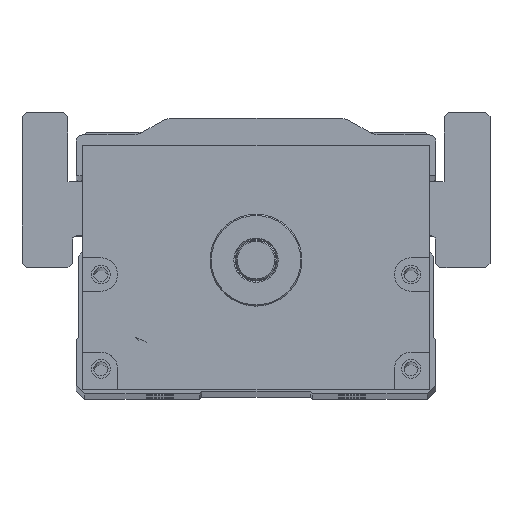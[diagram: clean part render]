
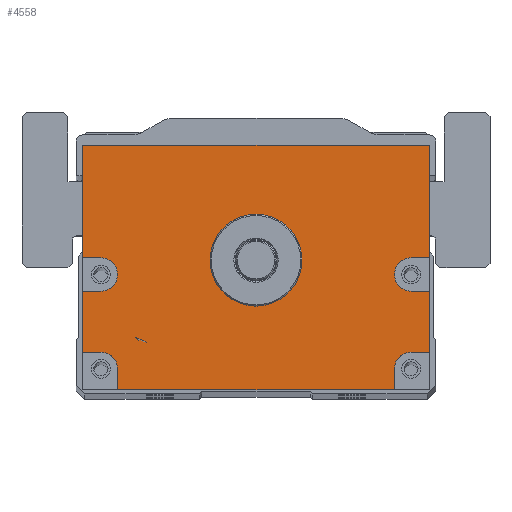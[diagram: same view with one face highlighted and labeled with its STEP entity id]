
A CAD part, top view. The second image highlights one B-rep face of the part: STEP entity #4558.
In plain terms, the highlighted planar face has unit normal (0, 0, 1).
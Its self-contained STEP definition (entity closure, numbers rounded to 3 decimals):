
#3886=FACE_BOUND('',#6260,.T.);
#3887=FACE_BOUND('',#6261,.T.);
#4558=ADVANCED_FACE('',(#3886,#3887),#5079,.T.);
#5079=PLANE('',#15587);
#6260=EDGE_LOOP('',(#10181,#10182,#10183,#10184,#10185,#10186,#10187,#10188,
#10189,#10190,#10191,#10192,#10193,#10194,#10195,#10196,#10197,#10198));
#6261=EDGE_LOOP('',(#10199));
#7175=LINE('',#22475,#7987);
#7177=LINE('',#22483,#7989);
#7178=LINE('',#22486,#7990);
#7179=LINE('',#22488,#7991);
#7180=LINE('',#22492,#7992);
#7181=LINE('',#22494,#7993);
#7182=LINE('',#22495,#7994);
#7183=LINE('',#22497,#7995);
#7184=LINE('',#22501,#7996);
#7185=LINE('',#22503,#7997);
#7186=LINE('',#22505,#7998);
#7187=LINE('',#22509,#7999);
#7188=LINE('',#22511,#8000);
#7189=LINE('',#22513,#8001);
#7987=VECTOR('',#17872,1.);
#7989=VECTOR('',#17880,1.);
#7990=VECTOR('',#17881,1.);
#7991=VECTOR('',#17882,1.);
#7992=VECTOR('',#17885,1.);
#7993=VECTOR('',#17886,1.);
#7994=VECTOR('',#17887,1.);
#7995=VECTOR('',#17888,1.);
#7996=VECTOR('',#17891,1.);
#7997=VECTOR('',#17892,1.);
#7998=VECTOR('',#17893,1.);
#7999=VECTOR('',#17896,1.);
#8000=VECTOR('',#17897,1.);
#8001=VECTOR('',#17898,1.);
#10181=ORIENTED_EDGE('',*,*,#13719,.F.);
#10182=ORIENTED_EDGE('',*,*,#13720,.T.);
#10183=ORIENTED_EDGE('',*,*,#13721,.F.);
#10184=ORIENTED_EDGE('',*,*,#13722,.F.);
#10185=ORIENTED_EDGE('',*,*,#13723,.F.);
#10186=ORIENTED_EDGE('',*,*,#13724,.T.);
#10187=ORIENTED_EDGE('',*,*,#13715,.T.);
#10188=ORIENTED_EDGE('',*,*,#13725,.T.);
#10189=ORIENTED_EDGE('',*,*,#13726,.F.);
#10190=ORIENTED_EDGE('',*,*,#13727,.F.);
#10191=ORIENTED_EDGE('',*,*,#13728,.F.);
#10192=ORIENTED_EDGE('',*,*,#13729,.T.);
#10193=ORIENTED_EDGE('',*,*,#13730,.F.);
#10194=ORIENTED_EDGE('',*,*,#13731,.F.);
#10195=ORIENTED_EDGE('',*,*,#13732,.F.);
#10196=ORIENTED_EDGE('',*,*,#13733,.T.);
#10197=ORIENTED_EDGE('',*,*,#13734,.F.);
#10198=ORIENTED_EDGE('',*,*,#13735,.F.);
#10199=ORIENTED_EDGE('',*,*,#13701,.T.);
#12266=VERTEX_POINT('',#22446);
#12279=VERTEX_POINT('',#22474);
#12280=VERTEX_POINT('',#22476);
#12283=VERTEX_POINT('',#22484);
#12284=VERTEX_POINT('',#22485);
#12285=VERTEX_POINT('',#22487);
#12286=VERTEX_POINT('',#22489);
#12287=VERTEX_POINT('',#22491);
#12288=VERTEX_POINT('',#22493);
#12289=VERTEX_POINT('',#22496);
#12290=VERTEX_POINT('',#22498);
#12291=VERTEX_POINT('',#22500);
#12292=VERTEX_POINT('',#22502);
#12293=VERTEX_POINT('',#22504);
#12294=VERTEX_POINT('',#22506);
#12295=VERTEX_POINT('',#22508);
#12296=VERTEX_POINT('',#22510);
#12297=VERTEX_POINT('',#22512);
#12298=VERTEX_POINT('',#22514);
#13701=EDGE_CURVE('',#12266,#12266,#14691,.T.);
#13715=EDGE_CURVE('',#12280,#12279,#7175,.T.);
#13719=EDGE_CURVE('',#12283,#12284,#7177,.T.);
#13720=EDGE_CURVE('',#12283,#12285,#7178,.T.);
#13721=EDGE_CURVE('',#12286,#12285,#7179,.T.);
#13722=EDGE_CURVE('',#12287,#12286,#14702,.T.);
#13723=EDGE_CURVE('',#12288,#12287,#7180,.T.);
#13724=EDGE_CURVE('',#12288,#12280,#7181,.T.);
#13725=EDGE_CURVE('',#12279,#12289,#7182,.T.);
#13726=EDGE_CURVE('',#12290,#12289,#7183,.T.);
#13727=EDGE_CURVE('',#12291,#12290,#14703,.T.);
#13728=EDGE_CURVE('',#12292,#12291,#7184,.T.);
#13729=EDGE_CURVE('',#12292,#12293,#7185,.T.);
#13730=EDGE_CURVE('',#12294,#12293,#7186,.T.);
#13731=EDGE_CURVE('',#12295,#12294,#14704,.T.);
#13732=EDGE_CURVE('',#12296,#12295,#7187,.T.);
#13733=EDGE_CURVE('',#12296,#12297,#7188,.T.);
#13734=EDGE_CURVE('',#12298,#12297,#7189,.T.);
#13735=EDGE_CURVE('',#12284,#12298,#14705,.T.);
#14691=CIRCLE('',#15569,11.);
#14702=CIRCLE('',#15583,4.);
#14703=CIRCLE('',#15584,4.);
#14704=CIRCLE('',#15585,4.);
#14705=CIRCLE('',#15586,4.);
#15569=AXIS2_PLACEMENT_3D('',#22445,#17845,#17846);
#15583=AXIS2_PLACEMENT_3D('',#22490,#17883,#17884);
#15584=AXIS2_PLACEMENT_3D('',#22499,#17889,#17890);
#15585=AXIS2_PLACEMENT_3D('',#22507,#17894,#17895);
#15586=AXIS2_PLACEMENT_3D('',#22515,#17899,#17900);
#15587=AXIS2_PLACEMENT_3D('',#22516,#17901,#17902);
#17845=DIRECTION('',(0.,0.,-1.));
#17846=DIRECTION('',(1.,0.,0.));
#17872=DIRECTION('',(-1.,0.,0.));
#17880=DIRECTION('',(-1.,0.,0.));
#17881=DIRECTION('',(0.,1.,0.));
#17882=DIRECTION('',(1.,0.,0.));
#17883=DIRECTION('',(0.,0.,1.));
#17884=DIRECTION('',(1.,0.,0.));
#17885=DIRECTION('',(-1.,0.,0.));
#17886=DIRECTION('',(0.,1.,0.));
#17887=DIRECTION('',(0.,-1.,0.));
#17888=DIRECTION('',(-1.,0.,0.));
#17889=DIRECTION('',(0.,0.,1.));
#17890=DIRECTION('',(1.,0.,0.));
#17891=DIRECTION('',(1.,0.,0.));
#17892=DIRECTION('',(0.,-1.,0.));
#17893=DIRECTION('',(-1.,0.,0.));
#17894=DIRECTION('',(0.,0.,1.));
#17895=DIRECTION('',(1.,0.,0.));
#17896=DIRECTION('',(0.,1.,0.));
#17897=DIRECTION('',(1.,0.,0.));
#17898=DIRECTION('',(0.,-1.,0.));
#17899=DIRECTION('',(0.,0.,1.));
#17900=DIRECTION('',(1.,0.,0.));
#17901=DIRECTION('',(0.,0.,1.));
#17902=DIRECTION('',(1.,0.,0.));
#22445=CARTESIAN_POINT('',(150.,0.,582.5));
#22446=CARTESIAN_POINT('',(161.,0.,582.5));
#22474=CARTESIAN_POINT('',(108.5,27.5,582.5));
#22475=CARTESIAN_POINT('',(191.5,27.5,582.5));
#22476=CARTESIAN_POINT('',(191.5,27.5,582.5));
#22483=CARTESIAN_POINT('',(191.5,-22.,582.5));
#22484=CARTESIAN_POINT('',(191.5,-22.,582.5));
#22485=CARTESIAN_POINT('',(187.115,-22.,582.5));
#22486=CARTESIAN_POINT('',(191.5,-31.,582.5));
#22487=CARTESIAN_POINT('',(191.5,-7.431,582.5));
#22488=CARTESIAN_POINT('',(191.5,-7.431,582.5));
#22489=CARTESIAN_POINT('',(187.115,-7.431,582.5));
#22490=CARTESIAN_POINT('',(187.115,-3.431,582.5));
#22491=CARTESIAN_POINT('',(187.115,0.569,582.5));
#22492=CARTESIAN_POINT('',(191.5,0.569,582.5));
#22493=CARTESIAN_POINT('',(191.5,0.569,582.5));
#22494=CARTESIAN_POINT('',(191.5,-31.,582.5));
#22495=CARTESIAN_POINT('',(108.5,27.5,582.5));
#22496=CARTESIAN_POINT('',(108.5,0.569,582.5));
#22497=CARTESIAN_POINT('',(191.5,0.569,582.5));
#22498=CARTESIAN_POINT('',(112.885,0.569,582.5));
#22499=CARTESIAN_POINT('',(112.885,-3.431,582.5));
#22500=CARTESIAN_POINT('',(112.885,-7.431,582.5));
#22501=CARTESIAN_POINT('',(191.5,-7.431,582.5));
#22502=CARTESIAN_POINT('',(108.5,-7.431,582.5));
#22503=CARTESIAN_POINT('',(108.5,27.5,582.5));
#22504=CARTESIAN_POINT('',(108.5,-22.,582.5));
#22505=CARTESIAN_POINT('',(191.5,-22.,582.5));
#22506=CARTESIAN_POINT('',(112.885,-22.,582.5));
#22507=CARTESIAN_POINT('',(112.885,-26.,582.5));
#22508=CARTESIAN_POINT('',(116.885,-26.,582.5));
#22509=CARTESIAN_POINT('',(116.885,-31.,582.5));
#22510=CARTESIAN_POINT('',(116.885,-31.,582.5));
#22511=CARTESIAN_POINT('',(108.5,-31.,582.5));
#22512=CARTESIAN_POINT('',(183.115,-31.,582.5));
#22513=CARTESIAN_POINT('',(183.115,-31.,582.5));
#22514=CARTESIAN_POINT('',(183.115,-26.,582.5));
#22515=CARTESIAN_POINT('',(187.115,-26.,582.5));
#22516=CARTESIAN_POINT('',(191.5,-31.,582.5));
